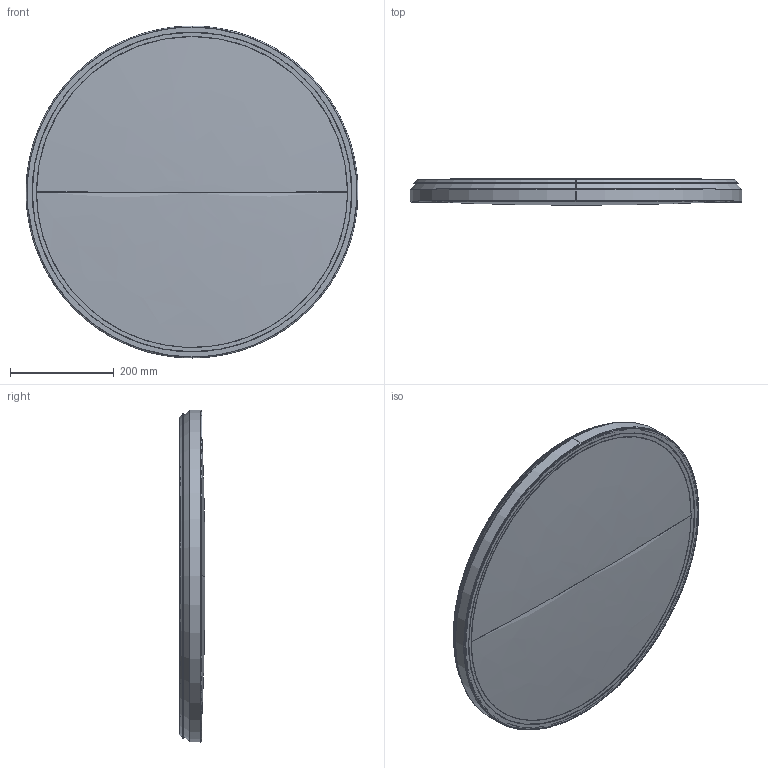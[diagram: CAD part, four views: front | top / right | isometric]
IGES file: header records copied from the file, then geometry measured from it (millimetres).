
Start section: SolidWorks IGES file using analytic representation for surfaces
Global section: file name: Z:\Modele 3D_WWW\_KOLEKCJE_WWW\AGNES\AGNES-ROUND-LED-8210-8206-8188-8185\AGNES-ROUND-LED-8210-8206-8188-8185.IGS; native system: SolidWorks 2020; preprocessor: SolidWorks 2020; author: gabriela.tworek; date: 210308.084207; units: millimetre
Bounding box: 640 x 50 x 640 mm (x, y, z)
Surface area: 1468846 mm2 (no closed solid volume)
Topology: 0 solids, 0 shells, 48 faces, 1304 edges, 1303 vertices
Faces by surface type: revolution 26, bspline 22
